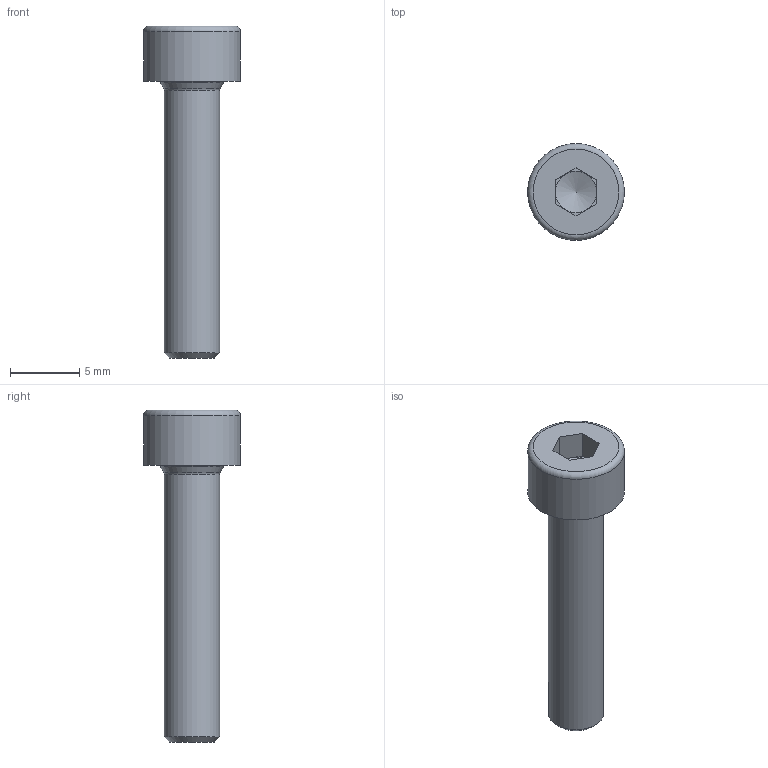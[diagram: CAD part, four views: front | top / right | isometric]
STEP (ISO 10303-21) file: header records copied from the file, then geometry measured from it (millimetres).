
FILE_DESCRIPTION(/* description */ ('STEP AP242 Edition 2','CAx-IF Rec.Pracs.---Representation and Presentation of Product Manufacturing Information (PMI)---4.0---2014-10-13','CAx-IF Rec.Pracs.---3D Tessellated Geometry---0.4---2014-09-14','2;1','CAx-IF Rec.Pracs.---User Defined Attributes---1.5---2016-08-15'),/* implementation_level */ '2;1');
FILE_NAME(/* name */ 'Assembly 1 - Hex socket head cap screw M4x0.70 x 20',/* time_stamp */ '2026-08-25T12:55:28Z',/* author */ (''),/* organization */ (''),/* preprocessor_version */ 'ST-DEVELOPER v20',/* originating_system */ 'ONSHAPE BY PTC INC, 1.219',/* authorisation */ ' ');
FILE_SCHEMA (('AP242_MANAGED_MODEL_BASED_3D_ENGINEERING_MIM_LF { 1 0 10303 442 3 1 4 }'));
Length unit declared in the file: metre
Products named in the file (1): Hex socket head cap screw M4x0.70 x 20
Bounding box: 7 x 7 x 24 mm (x, y, z)
Volume: 388.2 mm3; surface area: 427.5 mm2
Topology: 1 solids, 1 shells, 23 faces, 49 edges, 29 vertices
Faces by surface type: plane 15, torus 3, cone 3, cylinder 2
Full cylindrical faces by diameter (mm): 4 x1, 7 x1
Entity records: 578 total; most frequent: DIRECTION 102, CARTESIAN_POINT 91, ORIENTED_EDGE 78, EDGE_CURVE 39, AXIS2_PLACEMENT_3D 39, FACE_BOUND 33, EDGE_LOOP 32, VERTEX_POINT 28
